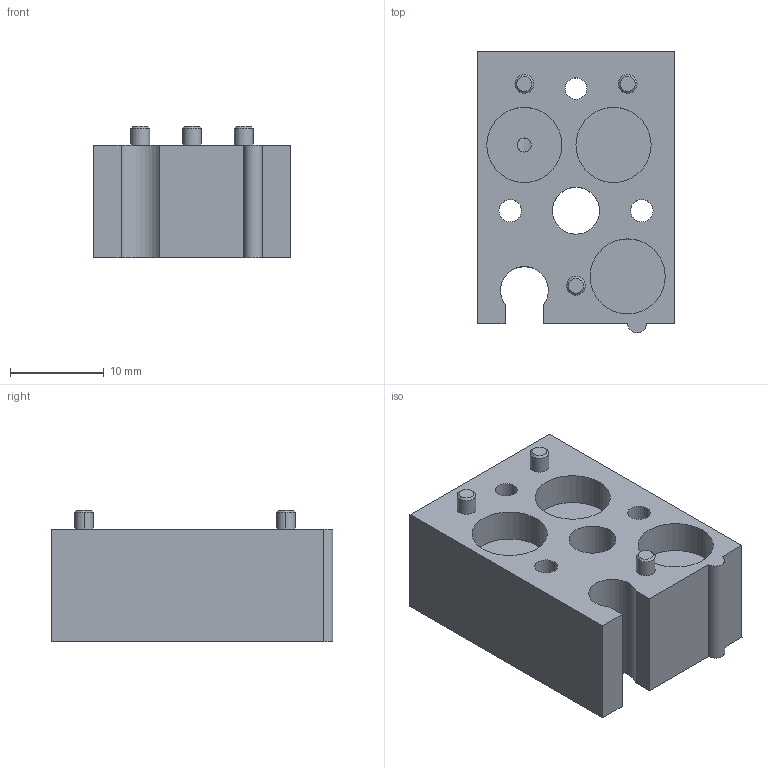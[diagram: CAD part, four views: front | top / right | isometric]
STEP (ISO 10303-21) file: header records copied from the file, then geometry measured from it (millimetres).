
FILE_DESCRIPTION(('CATIA V5 STEP Exchange'),'2;1');
FILE_NAME('G:\够快云库\系统集成开发部\1.部门成员\孙国\3D-stp打印件\1222\GZ-QM03_V2-O 密封板.stp','2020-12-22T05:44:08+00:00',('none'),('none'),'CATIA Version 5 Release 20 GA (IN-10)','CATIA V5 STEP AP203','none');
FILE_SCHEMA(('CONFIG_CONTROL_DESIGN'));
Length unit declared in the file: millimetre
Products named in the file (1): 密封板
Bounding box: 21 x 30 x 14 mm (x, y, z)
Volume: 5931.9 mm3; surface area: 3386.5 mm2
Topology: 1 solids, 1 shells, 51 faces, 120 edges, 78 vertices
Faces by surface type: cylinder 28, plane 17, cone 6
Entity records: 1406 total; most frequent: CARTESIAN_POINT 252, ORIENTED_EDGE 240, DIRECTION 180, EDGE_CURVE 120, AXIS2_PLACEMENT_3D 92, VERTEX_POINT 78, EDGE_LOOP 68, CIRCLE 60
